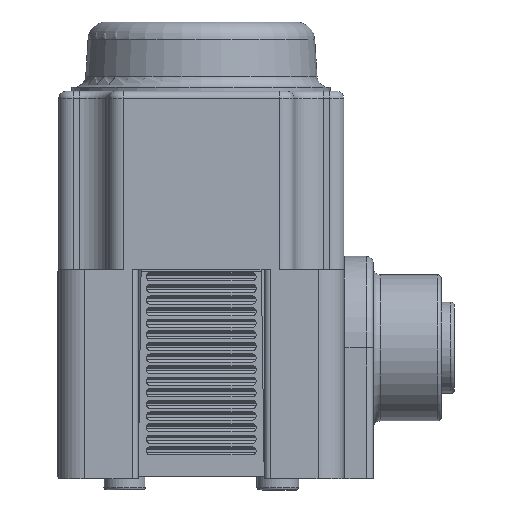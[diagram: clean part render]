
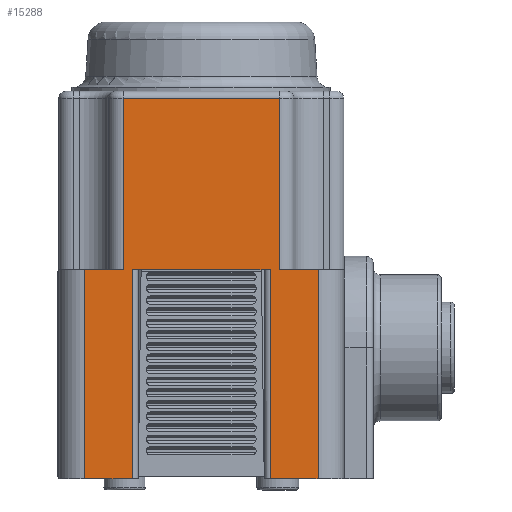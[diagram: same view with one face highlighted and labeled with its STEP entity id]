
A CAD part, left-side view. The second image highlights one B-rep face of the part: STEP entity #15288.
In plain terms, the highlighted planar face has unit normal (-1, 0, 0).
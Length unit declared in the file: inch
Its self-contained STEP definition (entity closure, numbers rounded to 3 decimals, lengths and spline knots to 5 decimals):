
#895=PLANE('',#16836);
#1699=FACE_OUTER_BOUND('',#2621,.T.);
#2621=EDGE_LOOP('',(#13217,#13218,#13219,#13220,#13221,#13222,#13223,#13224,
#13225,#13226,#13227,#13228));
#4380=LINE('',#27881,#5386);
#4393=LINE('',#27951,#5399);
#4509=LINE('',#29524,#5515);
#4526=LINE('',#29583,#5532);
#4527=LINE('',#29587,#5533);
#4530=LINE('',#29606,#5536);
#4543=LINE('',#29682,#5549);
#4544=LINE('',#29686,#5550);
#4545=LINE('',#29687,#5551);
#4546=LINE('',#29689,#5552);
#4547=LINE('',#29691,#5553);
#4548=LINE('',#29692,#5554);
#5386=VECTOR('',#20283,0.3937);
#5399=VECTOR('',#20366,0.3937);
#5515=VECTOR('',#20676,0.3937);
#5532=VECTOR('',#20747,0.3937);
#5533=VECTOR('',#20752,0.3937);
#5536=VECTOR('',#20773,0.3937);
#5549=VECTOR('',#20874,0.3937);
#5550=VECTOR('',#20879,0.3937);
#5551=VECTOR('',#20880,0.3937);
#5552=VECTOR('',#20881,0.3937);
#5553=VECTOR('',#20882,0.3937);
#5554=VECTOR('',#20883,0.3937);
#6764=VERTEX_POINT('',#27873);
#6766=VERTEX_POINT('',#27879);
#6788=VERTEX_POINT('',#27949);
#6918=VERTEX_POINT('',#29521);
#6919=VERTEX_POINT('',#29523);
#6934=VERTEX_POINT('',#29582);
#6935=VERTEX_POINT('',#29586);
#6942=VERTEX_POINT('',#29604);
#6961=VERTEX_POINT('',#29681);
#6962=VERTEX_POINT('',#29685);
#6963=VERTEX_POINT('',#29688);
#6964=VERTEX_POINT('',#29690);
#8765=EDGE_CURVE('',#6766,#6764,#4380,.T.);
#8801=EDGE_CURVE('',#6788,#6766,#4393,.T.);
#9003=EDGE_CURVE('',#6919,#6918,#4509,.T.);
#9032=EDGE_CURVE('',#6934,#6764,#4526,.T.);
#9034=EDGE_CURVE('',#6935,#6934,#4527,.T.);
#9044=EDGE_CURVE('',#6788,#6942,#4530,.T.);
#9082=EDGE_CURVE('',#6961,#6919,#4543,.T.);
#9084=EDGE_CURVE('',#6962,#6942,#4544,.T.);
#9085=EDGE_CURVE('',#6961,#6962,#4545,.T.);
#9086=EDGE_CURVE('',#6963,#6918,#4546,.T.);
#9087=EDGE_CURVE('',#6963,#6964,#4547,.T.);
#9088=EDGE_CURVE('',#6964,#6935,#4548,.T.);
#13217=ORIENTED_EDGE('',*,*,#8765,.F.);
#13218=ORIENTED_EDGE('',*,*,#8801,.F.);
#13219=ORIENTED_EDGE('',*,*,#9044,.T.);
#13220=ORIENTED_EDGE('',*,*,#9084,.F.);
#13221=ORIENTED_EDGE('',*,*,#9085,.F.);
#13222=ORIENTED_EDGE('',*,*,#9082,.T.);
#13223=ORIENTED_EDGE('',*,*,#9003,.T.);
#13224=ORIENTED_EDGE('',*,*,#9086,.F.);
#13225=ORIENTED_EDGE('',*,*,#9087,.T.);
#13226=ORIENTED_EDGE('',*,*,#9088,.T.);
#13227=ORIENTED_EDGE('',*,*,#9034,.T.);
#13228=ORIENTED_EDGE('',*,*,#9032,.T.);
#15288=ADVANCED_FACE('',(#1699),#895,.T.);
#16836=AXIS2_PLACEMENT_3D('',#29684,#20877,#20878);
#20283=DIRECTION('',(0.,-1.,0.));
#20366=DIRECTION('',(0.,0.,1.));
#20676=DIRECTION('',(0.,-1.,0.));
#20747=DIRECTION('',(0.,0.,1.));
#20752=DIRECTION('',(0.,1.,0.));
#20773=DIRECTION('',(0.,1.,0.));
#20874=DIRECTION('',(0.,0.,1.));
#20877=DIRECTION('center_axis',(-1.,0.,0.));
#20878=DIRECTION('ref_axis',(0.,0.,1.));
#20879=DIRECTION('',(0.,0.,1.));
#20880=DIRECTION('',(0.,1.,0.));
#20881=DIRECTION('',(0.,0.,1.));
#20882=DIRECTION('',(0.,-1.,0.));
#20883=DIRECTION('',(0.,0.,1.));
#27873=CARTESIAN_POINT('',(-1.15608,-0.30806,0.6733));
#27879=CARTESIAN_POINT('',(-1.15608,0.35994,0.6733));
#27881=CARTESIAN_POINT('',(-1.15608,0.35994,0.6733));
#27949=CARTESIAN_POINT('',(-1.15608,0.35994,-0.0587));
#27951=CARTESIAN_POINT('',(-1.15608,0.35994,-0.0587));
#29521=CARTESIAN_POINT('',(-1.15608,-0.26806,-0.0587));
#29523=CARTESIAN_POINT('',(-1.15608,0.31994,-0.0587));
#29524=CARTESIAN_POINT('',(-1.15608,0.31994,-0.0587));
#29582=CARTESIAN_POINT('',(-1.15608,-0.30806,-0.0587));
#29583=CARTESIAN_POINT('',(-1.15608,-0.30806,-0.0587));
#29586=CARTESIAN_POINT('',(-1.15608,-0.47306,-0.0587));
#29587=CARTESIAN_POINT('',(-1.15608,-0.47306,-0.0587));
#29604=CARTESIAN_POINT('',(-1.15608,0.52494,-0.0587));
#29606=CARTESIAN_POINT('',(-1.15608,0.35994,-0.0587));
#29681=CARTESIAN_POINT('',(-1.15608,0.31994,-0.9527));
#29682=CARTESIAN_POINT('',(-1.15608,0.31994,-0.9527));
#29684=CARTESIAN_POINT('Origin',(-1.15608,-0.47346,-0.1397));
#29685=CARTESIAN_POINT('',(-1.15608,0.52494,-0.9527));
#29686=CARTESIAN_POINT('',(-1.15608,0.52494,-0.9527));
#29687=CARTESIAN_POINT('',(-1.15608,0.31994,-0.9527));
#29688=CARTESIAN_POINT('',(-1.15608,-0.26806,-0.9527));
#29689=CARTESIAN_POINT('',(-1.15608,-0.26806,-0.9527));
#29690=CARTESIAN_POINT('',(-1.15608,-0.47306,-0.9527));
#29691=CARTESIAN_POINT('',(-1.15608,-0.26806,-0.9527));
#29692=CARTESIAN_POINT('',(-1.15608,-0.47306,-0.9527));
